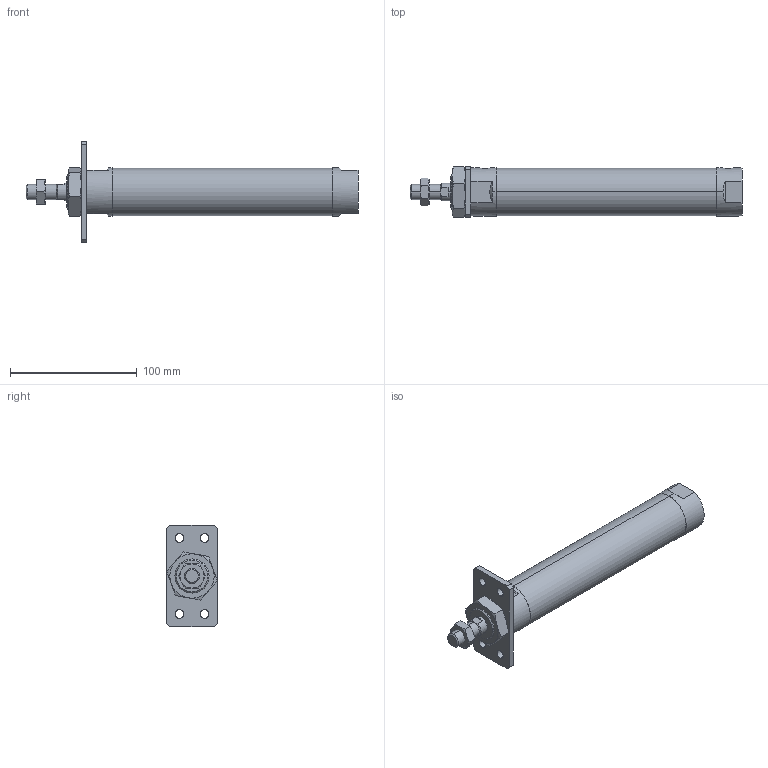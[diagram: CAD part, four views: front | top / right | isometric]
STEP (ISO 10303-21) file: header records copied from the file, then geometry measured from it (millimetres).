
FILE_DESCRIPTION (( 'STEP AP203' ), '1' );
FILE_NAME ('JGND2-32-125-A.STEP', '2016-08-04T02:53:06', ( '' ), ( '' ), 'SwSTEP 2.0', 'SolidWorks 2014', '' );
FILE_SCHEMA (( 'CONFIG_CONTROL_DESIGN' ));
Length unit declared in the file: millimetre
Products named in the file (5): JGND2-32-125-A; J#2-32-A; J#2-32-125(P)
Assembly tree (4 placements, depth 2):
  JGND2-32-125-A
    J#2-32-125(P)
    (unnamed)
    (unnamed)
    J#2-32-A
Bounding box: 262 x 40 x 80 mm (x, y, z)
Volume: 265690.4 mm3; surface area: 42240.7 mm2
Topology: 4 solids, 4 shells, 109 faces, 254 edges, 155 vertices
Faces by surface type: plane 42, cylinder 30, torus 24, cone 13
Entity records: 4084 total; most frequent: CARTESIAN_POINT 1128, DIRECTION 511, ORIENTED_EDGE 500, EDGE_CURVE 250, AXIS2_PLACEMENT_3D 208, VERTEX_POINT 155, EDGE_LOOP 129, ADVANCED_FACE 109
